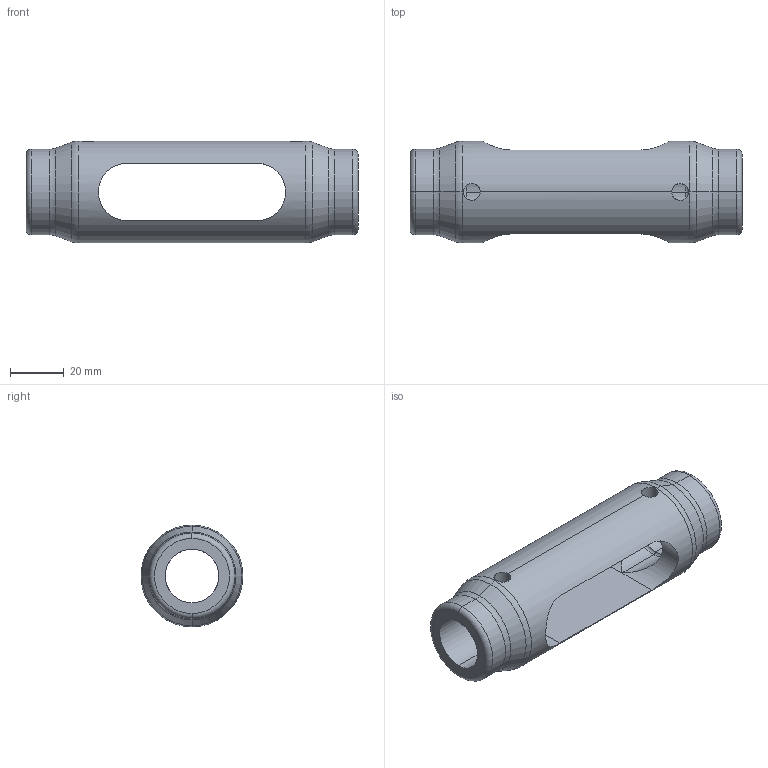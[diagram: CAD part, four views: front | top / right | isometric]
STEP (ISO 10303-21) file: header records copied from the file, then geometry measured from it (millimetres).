
FILE_DESCRIPTION (( 'STEP AP203' ), '1' );
FILE_NAME ('Kreuzmuffe M20.STEP', '2018-03-14T05:18:08', ( 'install' ), ( 'Hewlett-Packard Company' ), 'SwSTEP 2.0', 'SolidWorks 2017', '' );
FILE_SCHEMA (( 'CONFIG_CONTROL_DESIGN' ));
Length unit declared in the file: millimetre
Products named in the file (1): Kreuzmuffe M20
Bounding box: 124 x 38 x 38 mm (x, y, z)
Volume: 61128.4 mm3; surface area: 20902.7 mm2
Topology: 1 solids, 1 shells, 45 faces, 109 edges, 60 vertices
Faces by surface type: cylinder 22, torus 15, cone 4, plane 4
Entity records: 1813 total; most frequent: CARTESIAN_POINT 695, DIRECTION 226, ORIENTED_EDGE 218, EDGE_CURVE 109, AXIS2_PLACEMENT_3D 95, VERTEX_POINT 60, EDGE_LOOP 49, CIRCLE 49
